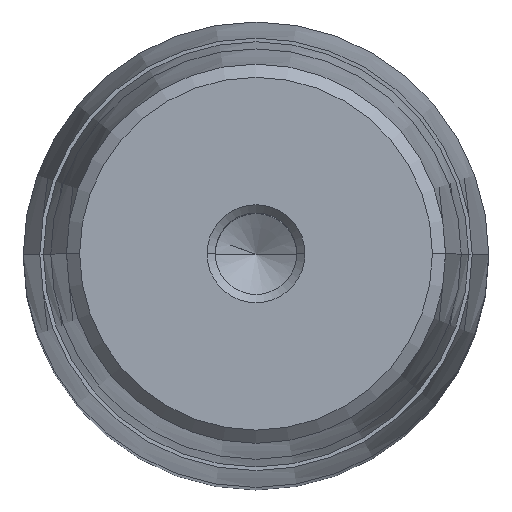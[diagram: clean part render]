
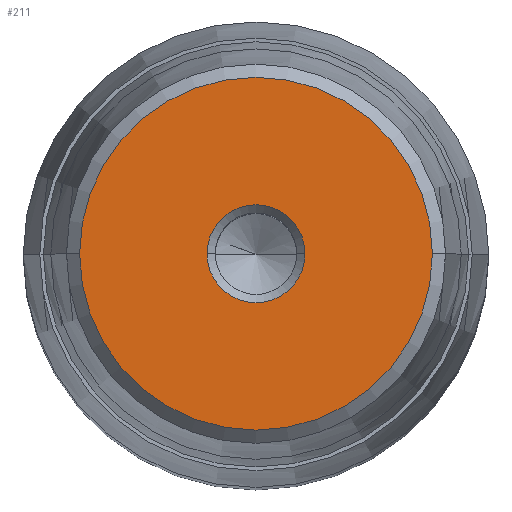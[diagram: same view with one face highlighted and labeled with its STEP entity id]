
A CAD part, top view. The second image highlights one B-rep face of the part: STEP entity #211.
In plain terms, the highlighted planar face has unit normal (0, 0, 1).
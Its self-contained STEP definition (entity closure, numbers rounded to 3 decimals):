
#136=CARTESIAN_POINT('Axis2P3D Location',(0.,0.,48.)) ;
#140=CARTESIAN_POINT('Vertex',(-4.,0.,48.)) ;
#142=CARTESIAN_POINT('Vertex',(4.,0.,48.)) ;
#179=CARTESIAN_POINT('Axis2P3D Location',(0.,4.,48.)) ;
#184=CARTESIAN_POINT('Axis2P3D Location',(0.,0.,48.)) ;
#188=CARTESIAN_POINT('Vertex',(-14.4,0.,48.)) ;
#190=CARTESIAN_POINT('Vertex',(14.4,0.,48.)) ;
#193=CARTESIAN_POINT('Axis2P3D Location',(0.,0.,48.)) ;
#202=CARTESIAN_POINT('Axis2P3D Location',(0.,0.,48.)) ;
#137=DIRECTION('Axis2P3D Direction',(0.,-0.,1.)) ;
#180=DIRECTION('Axis2P3D Direction',(0.,0.,-1.)) ;
#181=DIRECTION('Axis2P3D XDirection',(-1.,0.,0.)) ;
#185=DIRECTION('Axis2P3D Direction',(0.,0.,-1.)) ;
#194=DIRECTION('Axis2P3D Direction',(0.,0.,-1.)) ;
#203=DIRECTION('Axis2P3D Direction',(0.,0.,-1.)) ;
#138=AXIS2_PLACEMENT_3D('Circle Axis2P3D',#136,#137,$) ;
#182=AXIS2_PLACEMENT_3D('Plane Axis2P3D',#179,#180,#181) ;
#186=AXIS2_PLACEMENT_3D('Circle Axis2P3D',#184,#185,$) ;
#195=AXIS2_PLACEMENT_3D('Circle Axis2P3D',#193,#194,$) ;
#204=AXIS2_PLACEMENT_3D('Circle Axis2P3D',#202,#203,$) ;
#199=ORIENTED_EDGE('',*,*,#192,.F.) ;
#200=ORIENTED_EDGE('',*,*,#197,.F.) ;
#208=ORIENTED_EDGE('',*,*,#206,.T.) ;
#209=ORIENTED_EDGE('',*,*,#144,.T.) ;
#210=FACE_BOUND('',#207,.T.) ;
#211=ADVANCED_FACE('722-38x140x173',(#201,#210),#183,.F.) ;
#139=CIRCLE('generated circle',#138,4.) ;
#187=CIRCLE('generated circle',#186,14.4) ;
#196=CIRCLE('generated circle',#195,14.4) ;
#205=CIRCLE('generated circle',#204,4.) ;
#144=EDGE_CURVE('',#141,#143,#139,.F.) ;
#192=EDGE_CURVE('',#189,#191,#187,.T.) ;
#197=EDGE_CURVE('',#191,#189,#196,.T.) ;
#206=EDGE_CURVE('',#143,#141,#205,.T.) ;
#198=EDGE_LOOP('',(#199,#200)) ;
#207=EDGE_LOOP('',(#208,#209)) ;
#201=FACE_OUTER_BOUND('',#198,.T.) ;
#183=PLANE('Plane',#182) ;
#141=VERTEX_POINT('',#140) ;
#143=VERTEX_POINT('',#142) ;
#189=VERTEX_POINT('',#188) ;
#191=VERTEX_POINT('',#190) ;
